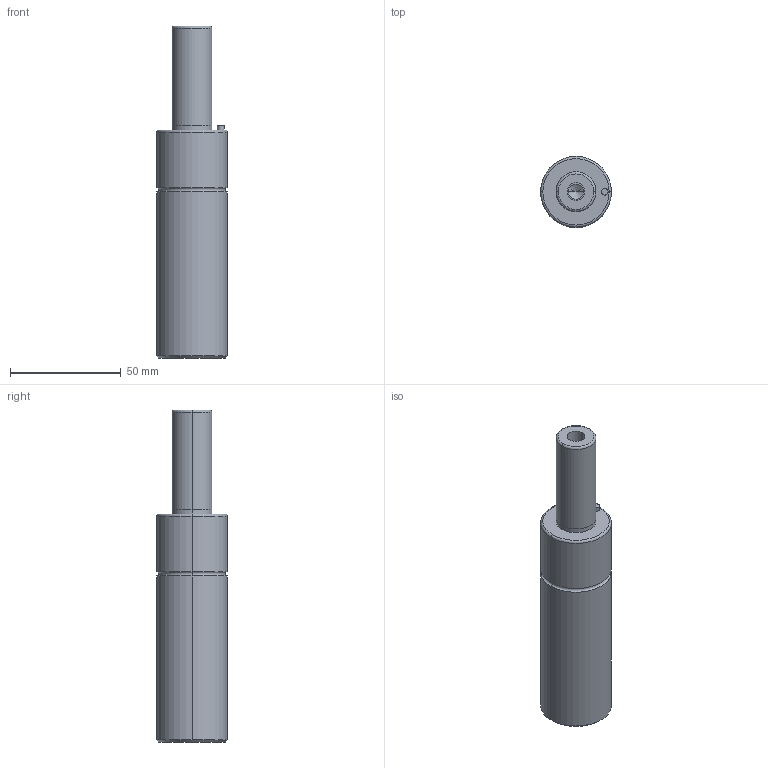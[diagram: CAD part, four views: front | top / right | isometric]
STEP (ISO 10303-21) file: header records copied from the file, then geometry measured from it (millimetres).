
FILE_DESCRIPTION(/* description */ (''),/* implementation_level */ '2;1');
FILE_NAME(/* name */ '3d_gsm32-45_03921_r00.stp',/* time_stamp */ '2011-01-10T14:15:16+09:00',/* author */ ('MISUMI'),/* organization */ (''),/* preprocessor_version */ 'ST-DEVELOPER v11',/* originating_system */ 'UGS - NX 5.0',/* authorisation */ '');
FILE_SCHEMA (('CONFIG_CONTROL_DESIGN'));
Length unit declared in the file: millimetre
Products named in the file (1): 3d_gsm32-45_03921_r00
Bounding box: 32 x 32 x 150 mm (x, y, z)
Volume: 93168.3 mm3; surface area: 15478.5 mm2
Topology: 1 solids, 1 shells, 50 faces, 106 edges, 60 vertices
Faces by surface type: cylinder 26, cone 10, plane 8, torus 6
Entity records: 1382 total; most frequent: DIRECTION 262, CARTESIAN_POINT 209, ORIENTED_EDGE 196, AXIS2_PLACEMENT_3D 113, EDGE_CURVE 98, CIRCLE 62, EDGE_LOOP 60, VERTEX_POINT 60
